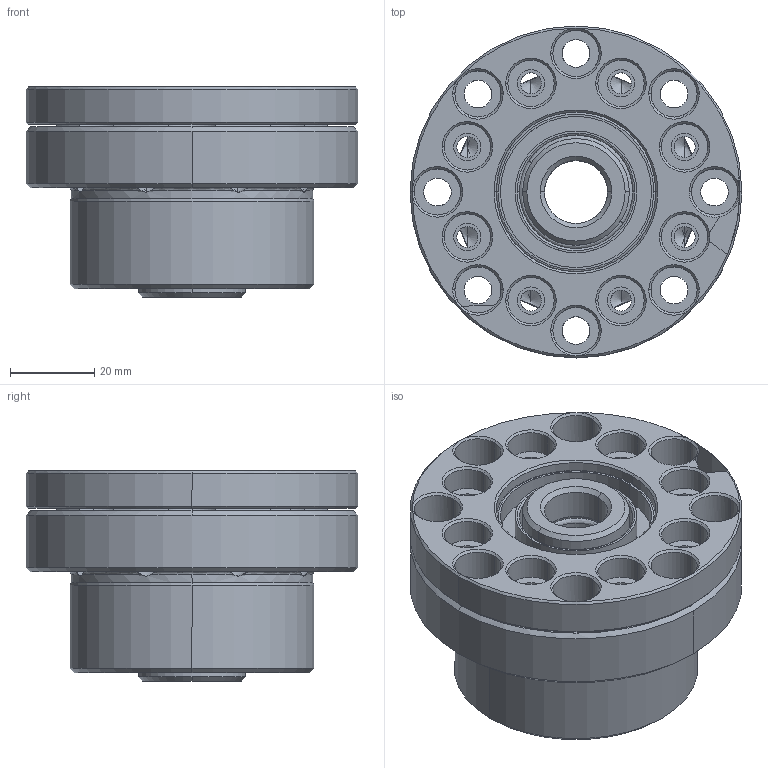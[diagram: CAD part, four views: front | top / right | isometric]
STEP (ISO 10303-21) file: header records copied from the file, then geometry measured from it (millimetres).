
FILE_DESCRIPTION (( 'STEP AP203' ), '1' );
FILE_NAME ('MBK15DF.STEP', '2010-03-26T01:02:50', ( '' ), ( '' ), 'SwSTEP 2.0', 'SolidWorks 2008', '' );
FILE_SCHEMA (( 'CONFIG_CONTROL_DESIGN' ));
Length unit declared in the file: millimetre
Products named in the file (1): MBK15DF
Bounding box: 79 x 79 x 50 mm (x, y, z)
Volume: 131700.6 mm3; surface area: 73244.7 mm2
Topology: 40 solids, 40 shells, 506 faces, 1369 edges, 795 vertices
Faces by surface type: cylinder 173, cone 145, bspline 118, plane 68, torus 2
Entity records: 17393 total; most frequent: CARTESIAN_POINT 5627, DIRECTION 2513, ORIENTED_EDGE 2478, EDGE_CURVE 1239, AXIS2_PLACEMENT_3D 1113, VERTEX_POINT 795, CIRCLE 724, EDGE_LOOP 578
